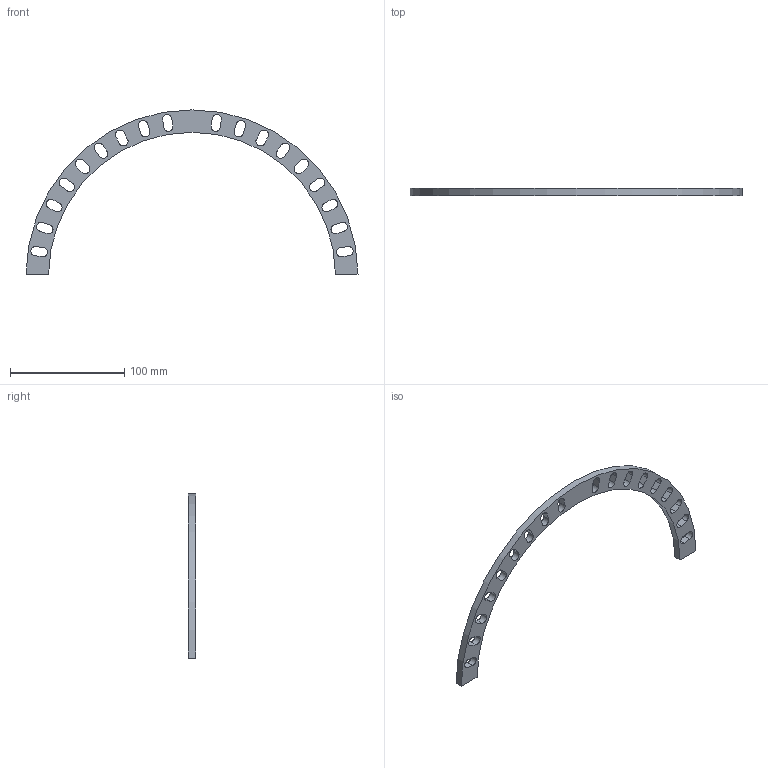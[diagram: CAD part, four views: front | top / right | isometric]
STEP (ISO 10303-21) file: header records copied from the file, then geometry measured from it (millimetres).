
FILE_DESCRIPTION(/* description */ (''),/* implementation_level */ '2;1');
FILE_NAME(/* name */ '2504_ePic_arc_L2.stp',/* time_stamp */ '2025-05-05T16:47:15+02:00',/* author */ (''),/* organization */ (''),/* preprocessor_version */ 'ST-DEVELOPER v19.4',/* originating_system */ 'SIEMENS PLM Software NX2306.5001',/* authorisation */ '');
FILE_SCHEMA (('AP203_CONFIGURATION_CONTROLLED_3D_DESIGN_OF_MECHANICAL_PARTS_AND_ASSEMBLIES_MIM_LF { 1 0 10303 403 2 1 2}'));
Length unit declared in the file: millimetre
Products named in the file (1): ePic-L2_FrameSensor.v4-Ring_dwg_objects
Bounding box: 289.98 x 6.35 x 143.5 mm (x, y, z)
Volume: 40788.2 mm3; surface area: 22844.2 mm2
Topology: 1 solids, 1 shells, 78 faces, 228 edges, 152 vertices
Faces by surface type: plane 40, cylinder 38
Entity records: 2766 total; most frequent: DIRECTION 462, CARTESIAN_POINT 459, ORIENTED_EDGE 456, EDGE_CURVE 228, AXIS2_PLACEMENT_3D 155, VERTEX_POINT 152, LINE 152, VECTOR 152
